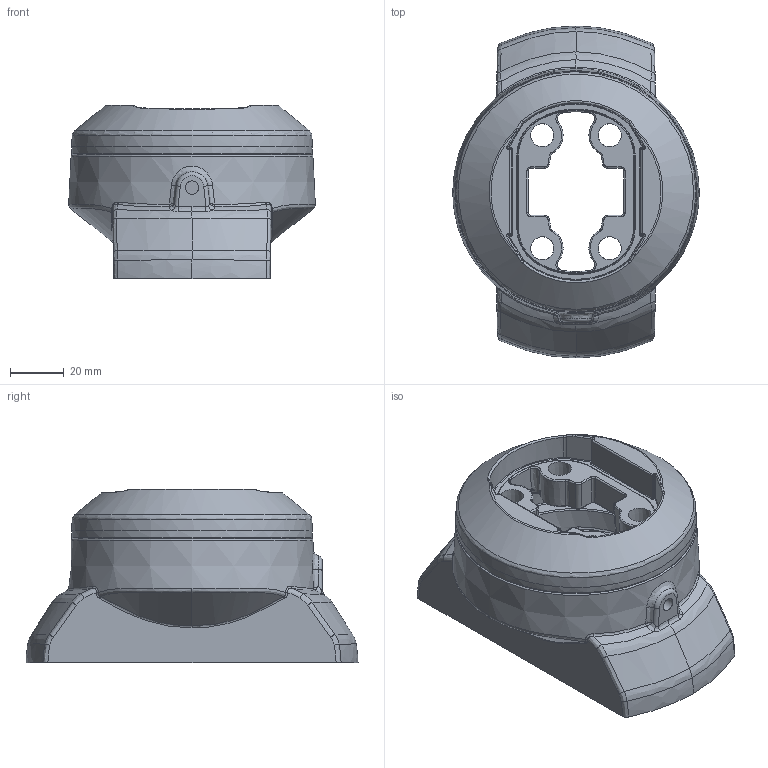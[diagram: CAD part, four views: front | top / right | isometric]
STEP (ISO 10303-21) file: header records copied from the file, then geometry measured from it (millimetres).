
FILE_DESCRIPTION(/* description */ (''),/* implementation_level */ '2;1');
FILE_NAME(/* name */ '50-65-2091.stp',/* time_stamp */ '2023-01-13T16:13:08+08:00',/* author */ (''),/* organization */ (''),/* preprocessor_version */ 'ST-DEVELOPER v11',/* originating_system */ 'SIEMENS PLM Software NX 7.0',/* authorisation */ '');
FILE_SCHEMA (('AUTOMOTIVE_DESIGN { 1 0 10303 214 1 1 1 1 }'));
Length unit declared in the file: millimetre
Products named in the file (1): PCCFB1eyn4
Bounding box: 91.58 x 123.3 x 64.44 mm (x, y, z)
Volume: 164864.6 mm3; surface area: 59442.8 mm2
Topology: 2 solids, 2 shells, 739 faces, 1740 edges, 970 vertices
Faces by surface type: bspline 352, cylinder 109, torus 97, plane 89, cone 59, sphere 33
Full cylindrical faces by diameter (mm): 5 x1
Entity records: 30045 total; most frequent: CARTESIAN_POINT 13665, ORIENTED_EDGE 3264, DIRECTION 2534, EDGE_CURVE 1632, AXIS2_PLACEMENT_3D 1146, VERTEX_POINT 956, EDGE_LOOP 812, ADVANCED_FACE 739
